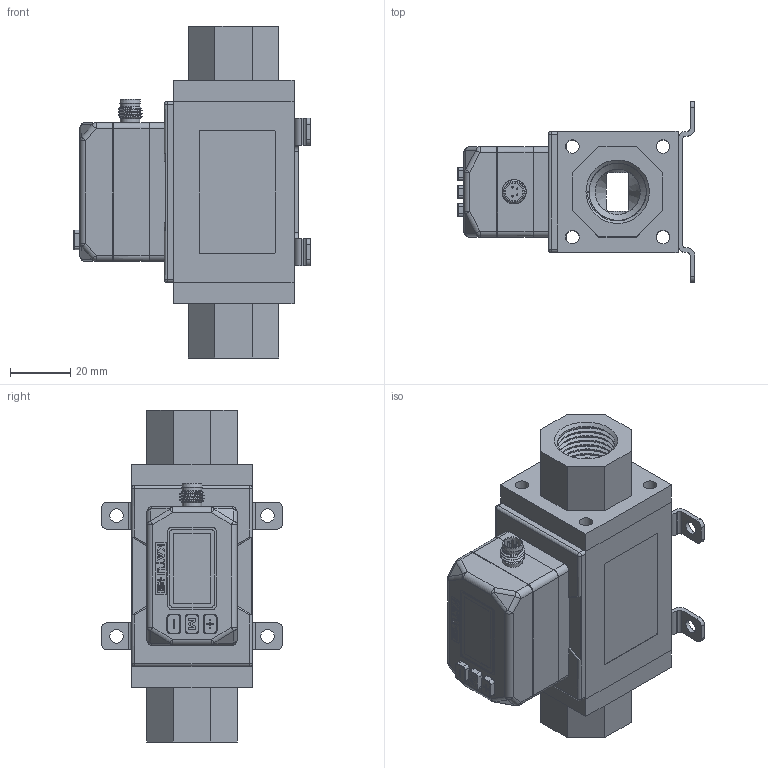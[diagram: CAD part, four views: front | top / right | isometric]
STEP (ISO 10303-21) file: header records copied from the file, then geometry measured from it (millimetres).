
FILE_DESCRIPTION( (''), '2;1');
FILE_NAME( 'QEKJ_40L_R1-2_M12_LED-display_bracket.step', '2023-06-26T19:20:15+08:00', (''), (''), '', '', '');
FILE_SCHEMA (('AUTOMOTIVE_DESIGN { 1 0 10303 214 3 1 1 1 }'));
Length unit declared in the file: millimetre
Products named in the file (1): QEKJ 40L_R1-2_M12_LED-display_bracket
Bounding box: 78.6 x 60 x 110 mm (x, y, z)
Volume: 109611.7 mm3; surface area: 65900.8 mm2
Topology: 7 solids, 8 shells, 940 faces, 2552 edges, 1664 vertices
Faces by surface type: plane 616, cylinder 211, cone 38, extrusion 30, sphere 20, torus 17, bspline 8
Full cylindrical faces by diameter (mm): 0.6 x4, 2.05 x4, 3 x4, 3.3 x4, 4.5 x24, 5 x4, 5.8 x1, 6.5 x2, 8 x5, 9.5 x1, 15 x2, 23 x4
Entity records: 37292 total; most frequent: CARTESIAN_POINT 13616, ORIENTED_EDGE 4784, DIRECTION 4342, EDGE_CURVE 2392, VERTEX_POINT 1617, VECTOR 1598, LINE 1568, AXIS2_PLACEMENT_3D 1372
